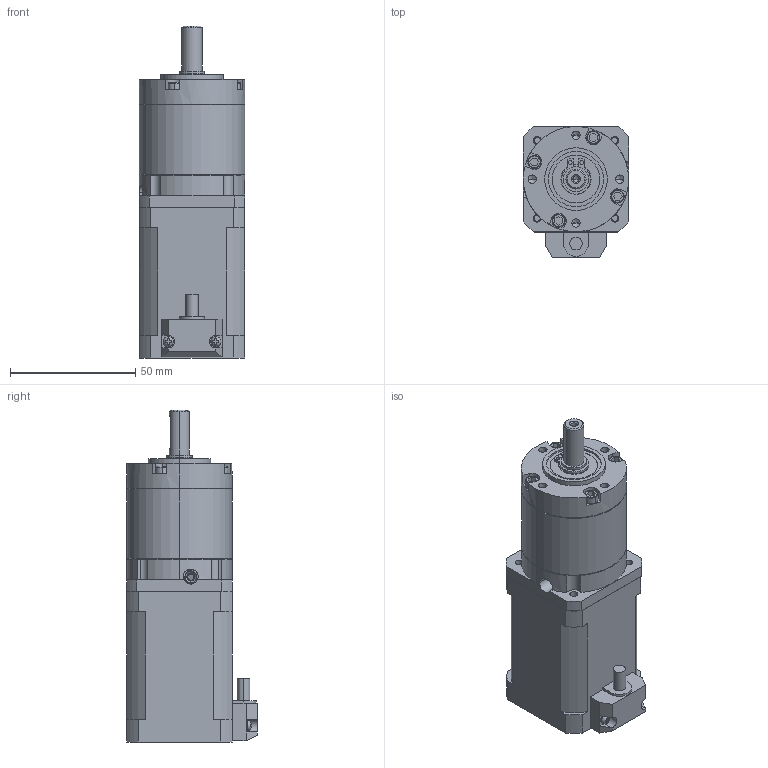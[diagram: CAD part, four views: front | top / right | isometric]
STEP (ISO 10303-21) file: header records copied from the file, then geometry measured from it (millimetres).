
FILE_DESCRIPTION (( 'STEP AP203' ), '1' );
FILE_NAME ('42HS060DF100Q-03.STEP', '2021-10-15T03:23:40', ( '' ), ( '' ), 'SwSTEP 2.0', 'SolidWorks 2018', '' );
FILE_SCHEMA (( 'CONFIG_CONTROL_DESIGN' ));
Length unit declared in the file: millimetre
Products named in the file (9): 6801.STEP; ______.STEP; __10____.STEP; M3____________.STEP; PLE42-L2.STEP; 42HS060DF100Q-03; 100Q-01; PLE42______-2__.STEP; 42GN________.STEP
Assembly tree (15 placements, depth 3):
  42HS060DF100Q-03
    100Q-01
    PLE42-L2.STEP
      PLE42______-2__.STEP
      42GN________.STEP
      6801.STEP
      ______.STEP
      __10____.STEP
      M3____________.STEP  x8
Bounding box: 42.2 x 52.2 x 132.5 mm (x, y, z)
Volume: 176899 mm3; surface area: 34982.1 mm2
Topology: 14 solids, 14 shells, 546 faces, 1356 edges, 878 vertices
Faces by surface type: plane 285, cylinder 208, torus 28, cone 24, bspline 1
Entity records: 15897 total; most frequent: CARTESIAN_POINT 3512, DIRECTION 2419, ORIENTED_EDGE 2300, EDGE_CURVE 1150, AXIS2_PLACEMENT_3D 915, VERTEX_POINT 752, VECTOR 589, LINE 589
